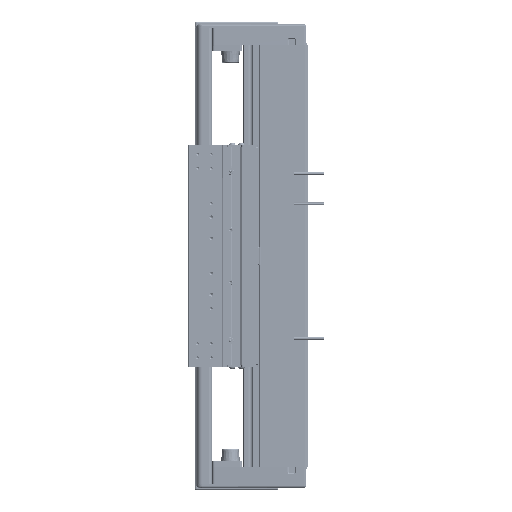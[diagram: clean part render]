
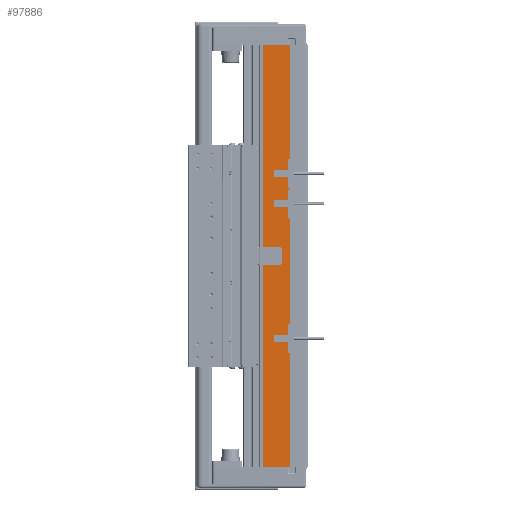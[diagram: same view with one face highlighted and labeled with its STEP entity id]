
A CAD part, left-side view. The second image highlights one B-rep face of the part: STEP entity #97886.
In plain terms, the highlighted planar face has unit normal (-1, 0, 0).
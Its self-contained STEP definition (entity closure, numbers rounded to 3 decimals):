
#1006 = CARTESIAN_POINT ( 'NONE',  ( -97.5, 14.45, -180. ) ) ;
#9113 = ORIENTED_EDGE ( 'NONE', *, *, #69850, .T. ) ;
#9700 = ORIENTED_EDGE ( 'NONE', *, *, #11187, .F. ) ;
#11187 = EDGE_CURVE ( 'NONE', #92381, #126890, #55294, .T. ) ;
#14778 = DIRECTION ( 'NONE',  ( 0., 0., -1. ) ) ;
#19486 = VERTEX_POINT ( 'NONE', #1006 ) ;
#24105 = ORIENTED_EDGE ( 'NONE', *, *, #45168, .T. ) ;
#25385 = DIRECTION ( 'NONE',  ( 0., 1., 0. ) ) ;
#35233 = DIRECTION ( 'NONE',  ( 0., -1., 0. ) ) ;
#38720 = VECTOR ( 'NONE', #35233, 1000. ) ;
#43060 = LINE ( 'NONE', #50891, #83550 ) ;
#45168 = EDGE_CURVE ( 'NONE', #92381, #48642, #93651, .T. ) ;
#48642 = VERTEX_POINT ( 'NONE', #63398 ) ;
#50891 = CARTESIAN_POINT ( 'NONE',  ( -97.5, 14.45, 180. ) ) ;
#53522 = ORIENTED_EDGE ( 'NONE', *, *, #66460, .F. ) ;
#55294 = LINE ( 'NONE', #66279, #38720 ) ;
#62634 = CARTESIAN_POINT ( 'NONE',  ( -97.5, 36.95, 180. ) ) ;
#63398 = CARTESIAN_POINT ( 'NONE',  ( -97.5, 36.95, -180. ) ) ;
#63552 = CARTESIAN_POINT ( 'NONE',  ( -97.5, 36.95, 180. ) ) ;
#64454 = AXIS2_PLACEMENT_3D ( 'NONE', #63552, #84867, #25385 ) ;
#66279 = CARTESIAN_POINT ( 'NONE',  ( -97.5, 36.95, 180. ) ) ;
#66460 = EDGE_CURVE ( 'NONE', #126890, #19486, #43060, .T. ) ;
#69850 = EDGE_CURVE ( 'NONE', #48642, #19486, #87345, .T. ) ;
#72843 = DIRECTION ( 'NONE',  ( 0., 0., -1. ) ) ;
#81415 = EDGE_LOOP ( 'NONE', ( #9113, #53522, #9700, #24105 ) ) ;
#83550 = VECTOR ( 'NONE', #72843, 1000. ) ;
#83569 = PLANE ( 'NONE',  #64454 ) ;
#84867 = DIRECTION ( 'NONE',  ( 1., 0., 0. ) ) ;
#85500 = FACE_OUTER_BOUND ( 'NONE', #81415, .T. ) ;
#87345 = LINE ( 'NONE', #126836, #112848 ) ;
#91156 = VECTOR ( 'NONE', #14778, 1000. ) ;
#92381 = VERTEX_POINT ( 'NONE', #116875 ) ;
#93651 = LINE ( 'NONE', #62634, #91156 ) ;
#97886 = ADVANCED_FACE ( 'NONE', ( #85500 ), #83569, .F. ) ;
#112848 = VECTOR ( 'NONE', #117111, 1000. ) ;
#113660 = CARTESIAN_POINT ( 'NONE',  ( -97.5, 14.45, 180. ) ) ;
#116875 = CARTESIAN_POINT ( 'NONE',  ( -97.5, 36.95, 180. ) ) ;
#117111 = DIRECTION ( 'NONE',  ( 0., -1., 0. ) ) ;
#126836 = CARTESIAN_POINT ( 'NONE',  ( -97.5, 36.95, -180. ) ) ;
#126890 = VERTEX_POINT ( 'NONE', #113660 ) ;
